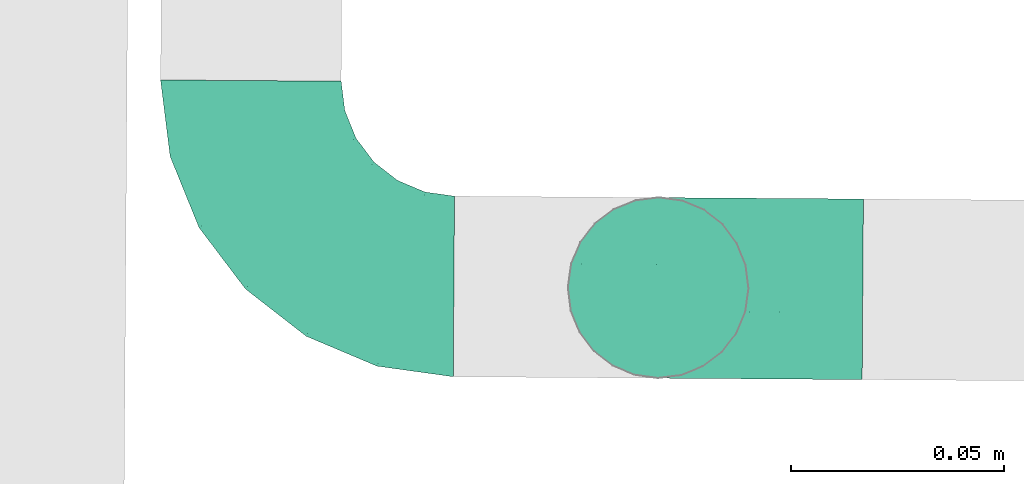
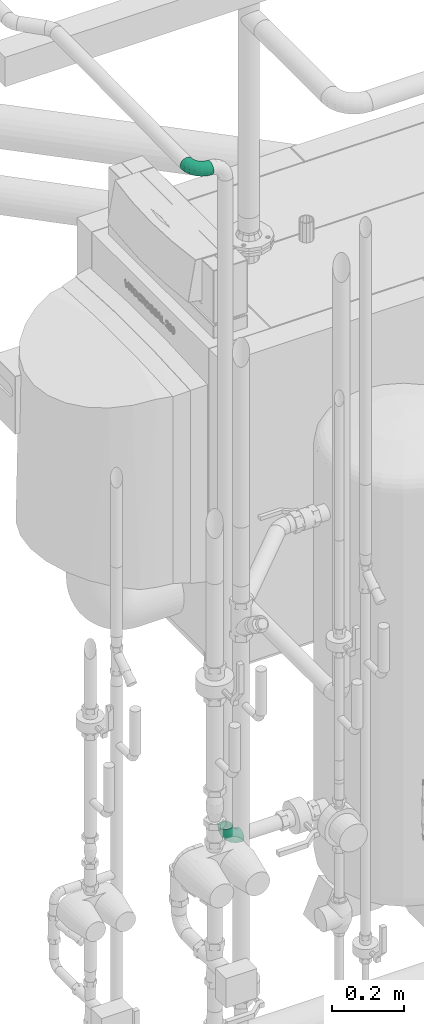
# One storey, part 279 of 374: 2 flow segments.
"""IFC2X3 building model written with IfcOpenShell, lengths in metres."""

from ifc_helpers import new_model, si_unit, direction, origin, place, context, subcontext, project, spatial, open_shell, surface_model, source, transform, mapped, element, save


model = new_model("IFC2X3")

# Units and contexts
model_context = context("Model", 3, precision=1e-05, world=origin(), true_north=direction((-0.4480736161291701, 0.8939966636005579)))
body_context = subcontext(model_context, "Body", "Model", "MODEL_VIEW")
ifc_project = project(units=[si_unit("LENGTHUNIT", "METRE"), si_unit("AREAUNIT", "SQUARE_METRE"), si_unit("VOLUMEUNIT", "CUBIC_METRE"), si_unit("PLANEANGLEUNIT", "RADIAN"), si_unit("THERMODYNAMICTEMPERATUREUNIT", "KELVIN"), si_unit("MASSUNIT", "GRAM", prefix="KILO"), si_unit("TIMEUNIT", "SECOND")], contexts=[model_context])

# Site, building, storey
site_placement = place(None, origin())
site = spatial("IfcSite", under=ifc_project, at=site_placement, Name="Site 1", CompositionType="ELEMENT")
building_placement = place(site_placement, origin())
building = spatial("IfcBuilding", under=site, at=building_placement, Name="Undefined", CompositionType="ELEMENT")
storey_placement = place(building_placement, origin())
storey = spatial("IfcBuildingStorey", under=building, at=storey_placement, Name="Rez de chauss\x8ee", CompositionType="ELEMENT", Elevation=0.0)

# Flow segments
shared_shape_1 = source(origin(), body_context, "Body", "SurfaceModel", [
    surface_model("IfcFaceBasedSurfaceModel", [(0.01806482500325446, 7.105427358e-15, 0.0), (0.017970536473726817, 0.005533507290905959, 0.0), (9.428852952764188e-05, 0.005533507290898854, 0.0), (0.0, 0.0, 0.0), (-0.017172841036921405, 0.00613233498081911, -0.004587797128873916), (-0.01744928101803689, 0.0006051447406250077, -0.004636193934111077), (-0.03265412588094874, 0.007289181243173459, -0.013450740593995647), (-0.0330938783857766, 0.0017741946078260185, -0.013592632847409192), (-0.045294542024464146, 0.008925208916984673, -0.02598483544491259), (-0.045867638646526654, 0.0034274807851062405, -0.02625895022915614), (-0.054232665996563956, 0.010928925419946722, -0.041335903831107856), (-0.05490005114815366, 0.005452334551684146, -0.04177195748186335), (-0.05885937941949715, 0.013163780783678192, -0.05845779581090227), (-0.059575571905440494, 0.007710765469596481, -0.05907446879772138), (0.01769409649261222, 0.010875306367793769, -0.0014203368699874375), (0.00037072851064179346, 0.010875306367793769, -0.0014203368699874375), (-0.016362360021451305, 0.011455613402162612, -0.005866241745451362), (-0.03136483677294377, 0.012576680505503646, -0.014455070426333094), (-0.04361430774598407, 0.014162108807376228, -0.026601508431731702), (-0.05227599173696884, 0.016103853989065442, -0.0414777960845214), (-0.05675960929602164, 0.018269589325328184, -0.05807013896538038), (0.017254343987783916, 0.015661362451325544, -0.0041642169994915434), (0.0008104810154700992, 0.015661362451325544, -0.004164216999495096), (-0.01507307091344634, 0.016212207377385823, -0.008384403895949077), (-0.029313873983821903, 0.01727635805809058, -0.016537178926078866), (-0.04094144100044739, 0.01878129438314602, -0.02806694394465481), (-0.049163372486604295, 0.02062445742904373, -0.042187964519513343), (-0.05341935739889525, 0.02268023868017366, -0.05793791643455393), (0.016681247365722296, 0.01956551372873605, -0.008044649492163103), (0.001383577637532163, 0.01956551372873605, -0.008044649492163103), (-0.01339283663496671, 0.020077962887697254, -0.011970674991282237), (-0.026641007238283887, 0.021067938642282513, -0.01955517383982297), (-0.03745809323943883, 0.02246797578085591, -0.03028127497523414), (-0.04510692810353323, 0.0241826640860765, -0.04341801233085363), (-0.04906625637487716, 0.026095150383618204, -0.05807013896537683), (0.016013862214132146, 0.022321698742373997, -0.012797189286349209), (0.0020509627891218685, 0.022321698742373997, -0.012797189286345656), (-0.011436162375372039, 0.02278943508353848, -0.016380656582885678), (-0.023528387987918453, 0.02369303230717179, -0.023303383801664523), (-0.03340164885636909, 0.024970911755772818, -0.03309359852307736), (-0.040383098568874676, 0.026535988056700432, -0.04508411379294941), (-0.04399696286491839, 0.028281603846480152, -0.05845779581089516), (0.015297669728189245, 0.023742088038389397, -0.018097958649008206), (0.00276715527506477, 0.023742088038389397, -0.018097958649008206), (-0.009336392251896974, 0.024161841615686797, -0.021313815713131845), (-0.02018813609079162, 0.02497274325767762, -0.0275263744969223), (-0.029048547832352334, 0.02611953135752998, -0.03631225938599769), (-0.03531380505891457, 0.027524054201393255, -0.04707272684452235), (-0.0385569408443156, 0.02909059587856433, -0.05907446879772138), (0.014581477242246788, 0.023729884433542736, -0.02358571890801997), (0.0034833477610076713, 0.023729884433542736, -0.02358571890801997), (-0.007236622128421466, 0.024101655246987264, -0.026433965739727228), (-0.016847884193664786, 0.02481986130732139, -0.03193635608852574), (-0.02469544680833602, 0.02583555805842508, -0.03971791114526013), (-0.0302445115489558, 0.027079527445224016, -0.04924833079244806), (-0.03311691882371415, 0.02846699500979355, -0.059878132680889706), (0.013914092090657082, 0.02228591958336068, -0.02888648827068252), (0.004150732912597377, 0.022285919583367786, -0.028886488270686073), (-0.005279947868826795, 0.022612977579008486, -0.031392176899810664), (-0.013735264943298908, 0.023244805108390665, -0.03623279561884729), (-0.020639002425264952, 0.02413834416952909, -0.04307846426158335), (-0.025520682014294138, 0.025232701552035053, -0.051462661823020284), (-0.028047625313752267, 0.026453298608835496, -0.060814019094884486), (0.013340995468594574, 0.01950859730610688, -0.03363902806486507), (0.0047238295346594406, 0.01950859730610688, -0.033639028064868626), (-0.0035997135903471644, 0.019797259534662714, -0.035850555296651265), (-0.011062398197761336, 0.0203549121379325, -0.04012289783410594), (-0.017155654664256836, 0.021143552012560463, -0.04616490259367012), (-0.02146423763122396, 0.022109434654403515, -0.05356481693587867), (-0.02369452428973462, 0.023186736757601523, -0.06181834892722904), (0.012901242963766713, 0.015587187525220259, -0.037519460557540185), (0.005163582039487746, 0.015587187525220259, -0.03751946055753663), (-0.0023104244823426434, 0.015846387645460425, -0.03950526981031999), (-0.009011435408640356, 0.016347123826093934, -0.043341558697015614), (-0.01448278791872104, 0.017055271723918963, -0.048766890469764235), (-0.018351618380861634, 0.017922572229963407, -0.05541153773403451), (-0.02035427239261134, 0.018889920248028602, -0.06282267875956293), (0.012624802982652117, 0.010788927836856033, -0.040263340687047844), (0.005440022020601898, 0.010788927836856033, -0.0402633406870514), (-0.0014999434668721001, 0.011029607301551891, -0.04210725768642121), (-0.007722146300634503, 0.01149456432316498, -0.045669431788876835), (-0.012802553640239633, 0.012152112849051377, -0.05070710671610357), (-0.0163949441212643, 0.012957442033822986, -0.056876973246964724), (-0.018254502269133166, 0.013855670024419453, -0.06375856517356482), (0.012530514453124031, 0.005440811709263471, -0.041683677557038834), (0.005534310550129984, 0.0054408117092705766, -0.041683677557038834), (-0.0012235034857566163, 0.005675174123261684, -0.04347919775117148), (-0.007282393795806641, 0.006127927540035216, -0.046947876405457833), (-0.012229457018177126, 0.0067682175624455, -0.05185332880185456), (-0.015727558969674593, 0.007552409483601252, -0.05786125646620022), (-0.01753830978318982, 0.008427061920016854, -0.0645622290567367), (0.012624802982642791, -9.269558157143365e-05, -0.04168367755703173), (0.005440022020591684, -9.269558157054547e-05, -0.041683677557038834), (-0.0014999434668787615, 0.0001479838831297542, -0.04352759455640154), (-0.00772214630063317, 0.0006129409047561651, -0.04708976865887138), (-0.012802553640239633, 0.001270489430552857, -0.05212744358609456), (-0.0163949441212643, 0.002075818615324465, -0.058297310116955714), (-0.018254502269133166, 0.0029740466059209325, -0.06517890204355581), (0.012901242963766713, -0.005434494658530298, -0.0402633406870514), (0.005163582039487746, -0.005434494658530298, -0.040263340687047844), (-0.0023104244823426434, -0.005175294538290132, -0.0422491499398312), (-0.009011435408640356, -0.004674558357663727, -0.046085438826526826), (-0.01448278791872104, -0.0039664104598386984, -0.051510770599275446), (-0.018351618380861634, -0.0030991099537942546, -0.05815541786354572), (-0.02035427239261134, -0.0021317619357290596, -0.06556655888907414), (0.013340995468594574, -0.010220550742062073, -0.03751946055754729), (0.0047238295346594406, -0.010220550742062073, -0.03751946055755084), (-0.0035997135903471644, -0.009931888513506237, -0.03973098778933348), (-0.011062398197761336, -0.009374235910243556, -0.04400333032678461), (-0.017155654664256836, -0.00858559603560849, -0.05004533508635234), (-0.02146423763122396, -0.007619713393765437, -0.057445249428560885), (-0.02369452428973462, -0.006542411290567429, -0.06569878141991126), (0.013914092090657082, -0.01412470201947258, -0.03363902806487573), (0.004150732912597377, -0.014124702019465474, -0.033639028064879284), (-0.005279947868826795, -0.013797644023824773, -0.036144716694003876), (-0.013735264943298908, -0.013165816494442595, -0.0409853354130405), (-0.020639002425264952, -0.012272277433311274, -0.04783100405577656), (-0.025520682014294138, -0.011177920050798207, -0.05621520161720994), (-0.028047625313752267, -0.009957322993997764, -0.0655665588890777), (0.014581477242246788, -0.01688088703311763, -0.028886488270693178), (0.0034833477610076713, -0.01688088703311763, -0.028886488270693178), (-0.007236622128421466, -0.016509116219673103, -0.031734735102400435), (-0.016847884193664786, -0.015790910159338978, -0.03723712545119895), (-0.02469544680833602, -0.014775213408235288, -0.04501868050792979), (-0.0302445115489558, -0.01353124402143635, -0.054549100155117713), (-0.03311691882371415, -0.012143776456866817, -0.06517890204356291), (0.015297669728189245, -0.01830127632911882, -0.02358571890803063), (0.00276715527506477, -0.01830127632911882, -0.02358571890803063), (-0.009336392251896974, -0.01788152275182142, -0.026801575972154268), (-0.02018813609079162, -0.017070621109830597, -0.033014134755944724), (-0.029048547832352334, -0.01592383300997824, -0.04180001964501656), (-0.03531380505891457, -0.014519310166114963, -0.05256048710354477), (-0.0385569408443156, -0.012952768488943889, -0.06456222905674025), (0.016013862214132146, -0.01828907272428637, -0.018097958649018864), (0.0020509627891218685, -0.01828907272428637, -0.018097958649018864), (-0.011436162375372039, -0.01782133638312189, -0.021681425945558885), (-0.023528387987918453, -0.016917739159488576, -0.02860415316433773), (-0.03340164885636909, -0.01563985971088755, -0.038394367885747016), (-0.040383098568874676, -0.014074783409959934, -0.05038488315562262), (-0.04399696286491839, -0.012329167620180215, -0.06375856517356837), (0.016681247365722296, -0.01684510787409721, -0.012797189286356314), (0.001383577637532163, -0.01684510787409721, -0.012797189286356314), (-0.01339283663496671, -0.016332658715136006, -0.01672321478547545), (-0.026641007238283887, -0.015342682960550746, -0.02430771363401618), (-0.03745809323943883, -0.01394264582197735, -0.03503381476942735), (-0.04510692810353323, -0.01222795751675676, -0.04817055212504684), (-0.04906625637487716, -0.010315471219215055, -0.06282267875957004), (0.017254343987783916, -0.014067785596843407, -0.008044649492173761), (0.0008104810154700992, -0.014067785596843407, -0.008044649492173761), (-0.01507307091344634, -0.013516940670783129, -0.012264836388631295), (-0.029313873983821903, -0.012452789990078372, -0.020417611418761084), (-0.04094144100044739, -0.010947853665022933, -0.03194737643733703), (-0.049163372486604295, -0.009104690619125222, -0.04606839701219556), (-0.05341935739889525, -0.007048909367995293, -0.06181834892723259), (0.01769409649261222, -0.010146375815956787, -0.004164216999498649), (0.00037072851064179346, -0.010146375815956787, -0.004164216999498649), (-0.016362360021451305, -0.009566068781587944, -0.008610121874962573), (-0.03136483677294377, -0.008445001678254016, -0.017198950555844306), (-0.04361430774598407, -0.006859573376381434, -0.029345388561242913), (-0.05227599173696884, -0.00491782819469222, -0.04422167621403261), (-0.05675960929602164, -0.002752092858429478, -0.060814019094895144), (0.017970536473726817, -0.0053481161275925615, -0.0014203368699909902), (9.428852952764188e-05, -0.005348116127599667, -0.001420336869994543), (-0.017172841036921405, -0.004749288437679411, -0.006008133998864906), (-0.03265412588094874, -0.0035924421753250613, -0.014871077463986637), (-0.045294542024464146, -0.001956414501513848, -0.02740517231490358), (-0.05423266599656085, 4.730200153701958e-05, -0.04275624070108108), (-0.05885937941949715, 0.002282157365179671, -0.05987813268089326)], [open_shell([[[0, 1, 2, 3]], [[3, 2, 4, 5]], [[5, 4, 6, 7]], [[7, 6, 8, 9]], [[9, 8, 10, 11]], [[11, 10, 12, 13]], [[1, 14, 15, 2]], [[2, 15, 16, 4]], [[4, 16, 17, 6]], [[6, 17, 18, 8]], [[8, 18, 19, 10]], [[10, 19, 20, 12]], [[14, 21, 22, 15]], [[15, 22, 23, 16]], [[16, 23, 24, 17]], [[17, 24, 25, 18]], [[18, 25, 26, 19]], [[19, 26, 27, 20]], [[21, 28, 29, 22]], [[22, 29, 30, 23]], [[23, 30, 31, 24]], [[24, 31, 32, 25]], [[25, 32, 33, 26]], [[26, 33, 34, 27]], [[28, 35, 36, 29]], [[29, 36, 37, 30]], [[30, 37, 38, 31]], [[31, 38, 39, 32]], [[32, 39, 40, 33]], [[33, 40, 41, 34]], [[35, 42, 43, 36]], [[36, 43, 44, 37]], [[37, 44, 45, 38]], [[38, 45, 46, 39]], [[39, 46, 47, 40]], [[40, 47, 48, 41]], [[42, 49, 50, 43]], [[43, 50, 51, 44]], [[44, 51, 52, 45]], [[45, 52, 53, 46]], [[46, 53, 54, 47]], [[47, 54, 55, 48]], [[49, 56, 57, 50]], [[50, 57, 58, 51]], [[51, 58, 59, 52]], [[52, 59, 60, 53]], [[53, 60, 61, 54]], [[54, 61, 62, 55]], [[56, 63, 64, 57]], [[57, 64, 65, 58]], [[58, 65, 66, 59]], [[59, 66, 67, 60]], [[60, 67, 68, 61]], [[61, 68, 69, 62]], [[63, 70, 71, 64]], [[64, 71, 72, 65]], [[65, 72, 73, 66]], [[66, 73, 74, 67]], [[67, 74, 75, 68]], [[68, 75, 76, 69]], [[70, 77, 78, 71]], [[71, 78, 79, 72]], [[72, 79, 80, 73]], [[73, 80, 81, 74]], [[74, 81, 82, 75]], [[75, 82, 83, 76]], [[77, 84, 85, 78]], [[78, 85, 86, 79]], [[79, 86, 87, 80]], [[80, 87, 88, 81]], [[81, 88, 89, 82]], [[82, 89, 90, 83]], [[84, 91, 92, 85]], [[85, 92, 93, 86]], [[86, 93, 94, 87]], [[87, 94, 95, 88]], [[88, 95, 96, 89]], [[89, 96, 97, 90]], [[91, 98, 99, 92]], [[92, 99, 100, 93]], [[93, 100, 101, 94]], [[94, 101, 102, 95]], [[95, 102, 103, 96]], [[96, 103, 104, 97]], [[98, 105, 106, 99]], [[99, 106, 107, 100]], [[100, 107, 108, 101]], [[101, 108, 109, 102]], [[102, 109, 110, 103]], [[103, 110, 111, 104]], [[105, 112, 113, 106]], [[106, 113, 114, 107]], [[107, 114, 115, 108]], [[108, 115, 116, 109]], [[109, 116, 117, 110]], [[110, 117, 118, 111]], [[112, 119, 120, 113]], [[113, 120, 121, 114]], [[114, 121, 122, 115]], [[115, 122, 123, 116]], [[116, 123, 124, 117]], [[117, 124, 125, 118]], [[119, 126, 127, 120]], [[120, 127, 128, 121]], [[121, 128, 129, 122]], [[122, 129, 130, 123]], [[123, 130, 131, 124]], [[124, 131, 132, 125]], [[126, 133, 134, 127]], [[127, 134, 135, 128]], [[128, 135, 136, 129]], [[129, 136, 137, 130]], [[130, 137, 138, 131]], [[131, 138, 139, 132]], [[133, 140, 141, 134]], [[134, 141, 142, 135]], [[135, 142, 143, 136]], [[136, 143, 144, 137]], [[137, 144, 145, 138]], [[138, 145, 146, 139]], [[140, 147, 148, 141]], [[141, 148, 149, 142]], [[142, 149, 150, 143]], [[143, 150, 151, 144]], [[144, 151, 152, 145]], [[145, 152, 153, 146]], [[147, 154, 155, 148]], [[148, 155, 156, 149]], [[149, 156, 157, 150]], [[150, 157, 158, 151]], [[151, 158, 159, 152]], [[152, 159, 160, 153]], [[154, 161, 162, 155]], [[155, 162, 163, 156]], [[156, 163, 164, 157]], [[157, 164, 165, 158]], [[158, 165, 166, 159]], [[159, 166, 167, 160]], [[161, 0, 3, 162]], [[162, 3, 5, 163]], [[163, 5, 7, 164]], [[164, 7, 9, 165]], [[165, 9, 11, 166]], [[166, 11, 13, 167]]])]),
])
flow_segment_1_placement = place(storey_placement, origin())
element("IfcFlowSegment", 1, at=flow_segment_1_placement, inside=storey, Name="Tube coudé", ObjectType="Tube coudé", context=body_context, shape_type="MappedRepresentation", body=[
    mapped(shared_shape_1, transform((52.94859525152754, 11.739609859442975, 2.6735279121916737), x_axis=(-0.12360147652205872, 0.9923319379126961, 0.0), y_axis=(0.12843584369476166, 0.015997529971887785, -0.9915887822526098), z_axis=(-0.9839852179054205, -0.12256183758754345, -0.12942830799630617))),
])
shared_shape_2 = source(origin(), body_context, "Body", "SurfaceModel", [
    surface_model("IfcFaceBasedSurfaceModel", [(0.01806482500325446, 7.105427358e-15, 0.0), (0.017970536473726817, 0.005533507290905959, 0.0), (9.428852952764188e-05, 0.005533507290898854, 0.0), (0.0, 0.0, 0.0), (-0.017172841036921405, 0.00613233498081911, -0.004587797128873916), (-0.01744928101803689, 0.0006051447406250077, -0.004636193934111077), (-0.03265412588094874, 0.007289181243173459, -0.013450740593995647), (-0.0330938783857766, 0.0017741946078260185, -0.013592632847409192), (-0.045294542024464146, 0.008925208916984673, -0.02598483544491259), (-0.045867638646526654, 0.0034274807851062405, -0.02625895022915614), (-0.054232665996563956, 0.010928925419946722, -0.041335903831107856), (-0.05490005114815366, 0.005452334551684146, -0.04177195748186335), (-0.05885937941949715, 0.013163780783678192, -0.05845779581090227), (-0.059575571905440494, 0.007710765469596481, -0.05907446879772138), (0.01769409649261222, 0.010875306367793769, -0.0014203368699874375), (0.00037072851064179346, 0.010875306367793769, -0.0014203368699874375), (-0.016362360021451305, 0.011455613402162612, -0.005866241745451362), (-0.03136483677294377, 0.012576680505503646, -0.014455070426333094), (-0.04361430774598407, 0.014162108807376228, -0.026601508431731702), (-0.05227599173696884, 0.016103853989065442, -0.0414777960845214), (-0.05675960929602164, 0.018269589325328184, -0.05807013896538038), (0.017254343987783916, 0.015661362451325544, -0.0041642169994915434), (0.0008104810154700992, 0.015661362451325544, -0.004164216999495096), (-0.01507307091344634, 0.016212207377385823, -0.008384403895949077), (-0.029313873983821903, 0.01727635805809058, -0.016537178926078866), (-0.04094144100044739, 0.01878129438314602, -0.02806694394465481), (-0.049163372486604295, 0.02062445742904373, -0.042187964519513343), (-0.05341935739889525, 0.02268023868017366, -0.05793791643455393), (0.016681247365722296, 0.01956551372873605, -0.008044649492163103), (0.001383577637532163, 0.01956551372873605, -0.008044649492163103), (-0.01339283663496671, 0.020077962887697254, -0.011970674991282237), (-0.026641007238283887, 0.021067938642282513, -0.01955517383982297), (-0.03745809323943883, 0.02246797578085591, -0.03028127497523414), (-0.04510692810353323, 0.0241826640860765, -0.04341801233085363), (-0.04906625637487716, 0.026095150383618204, -0.05807013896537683), (0.016013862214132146, 0.022321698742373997, -0.012797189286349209), (0.0020509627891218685, 0.022321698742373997, -0.012797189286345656), (-0.011436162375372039, 0.02278943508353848, -0.016380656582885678), (-0.023528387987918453, 0.02369303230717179, -0.023303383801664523), (-0.03340164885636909, 0.024970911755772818, -0.03309359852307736), (-0.040383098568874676, 0.026535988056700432, -0.04508411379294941), (-0.04399696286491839, 0.028281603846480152, -0.05845779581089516), (0.015297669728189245, 0.023742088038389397, -0.018097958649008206), (0.00276715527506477, 0.023742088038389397, -0.018097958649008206), (-0.009336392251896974, 0.024161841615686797, -0.021313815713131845), (-0.02018813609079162, 0.02497274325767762, -0.0275263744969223), (-0.029048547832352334, 0.02611953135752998, -0.03631225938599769), (-0.03531380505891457, 0.027524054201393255, -0.04707272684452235), (-0.0385569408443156, 0.02909059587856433, -0.05907446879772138), (0.014581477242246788, 0.023729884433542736, -0.02358571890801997), (0.0034833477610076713, 0.023729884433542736, -0.02358571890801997), (-0.007236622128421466, 0.024101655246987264, -0.026433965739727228), (-0.016847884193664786, 0.02481986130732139, -0.03193635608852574), (-0.02469544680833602, 0.02583555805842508, -0.03971791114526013), (-0.0302445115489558, 0.027079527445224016, -0.04924833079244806), (-0.03311691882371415, 0.02846699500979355, -0.059878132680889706), (0.013914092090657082, 0.02228591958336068, -0.02888648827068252), (0.004150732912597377, 0.022285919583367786, -0.028886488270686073), (-0.005279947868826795, 0.022612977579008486, -0.031392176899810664), (-0.013735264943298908, 0.023244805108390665, -0.03623279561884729), (-0.020639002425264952, 0.02413834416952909, -0.04307846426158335), (-0.025520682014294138, 0.025232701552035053, -0.051462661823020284), (-0.028047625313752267, 0.026453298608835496, -0.060814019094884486), (0.013340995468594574, 0.01950859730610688, -0.03363902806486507), (0.0047238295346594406, 0.01950859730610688, -0.033639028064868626), (-0.0035997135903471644, 0.019797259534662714, -0.035850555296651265), (-0.011062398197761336, 0.0203549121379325, -0.04012289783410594), (-0.017155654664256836, 0.021143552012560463, -0.04616490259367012), (-0.02146423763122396, 0.022109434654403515, -0.05356481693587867), (-0.02369452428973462, 0.023186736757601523, -0.06181834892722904), (0.012901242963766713, 0.015587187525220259, -0.037519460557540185), (0.005163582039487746, 0.015587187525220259, -0.03751946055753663), (-0.0023104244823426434, 0.015846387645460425, -0.03950526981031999), (-0.009011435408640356, 0.016347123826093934, -0.043341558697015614), (-0.01448278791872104, 0.017055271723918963, -0.048766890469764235), (-0.018351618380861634, 0.017922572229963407, -0.05541153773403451), (-0.02035427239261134, 0.018889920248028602, -0.06282267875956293), (0.012624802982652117, 0.010788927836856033, -0.040263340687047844), (0.005440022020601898, 0.010788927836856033, -0.0402633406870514), (-0.0014999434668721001, 0.011029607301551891, -0.04210725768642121), (-0.007722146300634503, 0.01149456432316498, -0.045669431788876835), (-0.012802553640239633, 0.012152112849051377, -0.05070710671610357), (-0.0163949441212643, 0.012957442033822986, -0.056876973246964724), (-0.018254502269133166, 0.013855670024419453, -0.06375856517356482), (0.012530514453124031, 0.005440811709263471, -0.041683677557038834), (0.005534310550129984, 0.0054408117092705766, -0.041683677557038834), (-0.0012235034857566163, 0.005675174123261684, -0.04347919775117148), (-0.007282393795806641, 0.006127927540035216, -0.046947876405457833), (-0.012229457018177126, 0.0067682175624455, -0.05185332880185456), (-0.015727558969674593, 0.007552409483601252, -0.05786125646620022), (-0.01753830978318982, 0.008427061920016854, -0.0645622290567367), (0.012624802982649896, -9.26955816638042e-05, -0.04168367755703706), (0.005440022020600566, -9.269558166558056e-05, -0.04168367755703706), (-0.0014999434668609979, 0.00014798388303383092, -0.0435275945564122), (-0.007722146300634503, 0.0006129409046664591, -0.047089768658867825), (-0.012802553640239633, 0.001270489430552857, -0.05212744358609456), (-0.0163949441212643, 0.002075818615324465, -0.058297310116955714), (-0.018254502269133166, 0.0029740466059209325, -0.06517890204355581), (0.012901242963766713, -0.005434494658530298, -0.0402633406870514), (0.005163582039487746, -0.005434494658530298, -0.040263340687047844), (-0.0023104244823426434, -0.005175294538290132, -0.0422491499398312), (-0.009011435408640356, -0.004674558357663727, -0.046085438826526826), (-0.01448278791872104, -0.0039664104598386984, -0.051510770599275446), (-0.018351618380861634, -0.0030991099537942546, -0.05815541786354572), (-0.02035427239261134, -0.0021317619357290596, -0.06556655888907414), (0.013340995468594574, -0.010220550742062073, -0.03751946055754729), (0.0047238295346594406, -0.010220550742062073, -0.03751946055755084), (-0.0035997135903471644, -0.009931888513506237, -0.03973098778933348), (-0.011062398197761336, -0.009374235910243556, -0.04400333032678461), (-0.017155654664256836, -0.00858559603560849, -0.05004533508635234), (-0.02146423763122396, -0.007619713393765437, -0.057445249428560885), (-0.02369452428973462, -0.006542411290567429, -0.06569878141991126), (0.013914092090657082, -0.01412470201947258, -0.03363902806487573), (0.004150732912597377, -0.014124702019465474, -0.033639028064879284), (-0.005279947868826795, -0.013797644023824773, -0.036144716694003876), (-0.013735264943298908, -0.013165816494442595, -0.0409853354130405), (-0.020639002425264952, -0.012272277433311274, -0.04783100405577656), (-0.025520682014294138, -0.011177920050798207, -0.05621520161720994), (-0.028047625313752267, -0.009957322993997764, -0.0655665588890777), (0.014581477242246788, -0.01688088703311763, -0.028886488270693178), (0.0034833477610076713, -0.01688088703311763, -0.028886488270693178), (-0.007236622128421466, -0.016509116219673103, -0.031734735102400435), (-0.016847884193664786, -0.015790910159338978, -0.03723712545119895), (-0.02469544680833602, -0.014775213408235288, -0.04501868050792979), (-0.0302445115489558, -0.01353124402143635, -0.054549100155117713), (-0.03311691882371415, -0.012143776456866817, -0.06517890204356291), (0.015297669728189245, -0.01830127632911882, -0.02358571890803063), (0.00276715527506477, -0.01830127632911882, -0.02358571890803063), (-0.009336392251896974, -0.01788152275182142, -0.026801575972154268), (-0.02018813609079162, -0.017070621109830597, -0.033014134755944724), (-0.029048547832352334, -0.01592383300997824, -0.04180001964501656), (-0.03531380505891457, -0.014519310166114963, -0.05256048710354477), (-0.0385569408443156, -0.012952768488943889, -0.06456222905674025), (0.016013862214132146, -0.01828907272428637, -0.018097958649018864), (0.0020509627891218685, -0.01828907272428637, -0.018097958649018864), (-0.011436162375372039, -0.01782133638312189, -0.021681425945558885), (-0.023528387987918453, -0.016917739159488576, -0.02860415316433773), (-0.03340164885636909, -0.01563985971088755, -0.038394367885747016), (-0.040383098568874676, -0.014074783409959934, -0.05038488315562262), (-0.04399696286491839, -0.012329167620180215, -0.06375856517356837), (0.016681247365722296, -0.01684510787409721, -0.012797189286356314), (0.001383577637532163, -0.01684510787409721, -0.012797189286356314), (-0.01339283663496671, -0.016332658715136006, -0.01672321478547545), (-0.026641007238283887, -0.015342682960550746, -0.02430771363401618), (-0.03745809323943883, -0.01394264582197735, -0.03503381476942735), (-0.04510692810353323, -0.01222795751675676, -0.04817055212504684), (-0.04906625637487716, -0.010315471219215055, -0.06282267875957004), (0.017254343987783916, -0.014067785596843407, -0.008044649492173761), (0.0008104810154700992, -0.014067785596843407, -0.008044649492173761), (-0.01507307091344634, -0.013516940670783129, -0.012264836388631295), (-0.029313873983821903, -0.012452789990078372, -0.020417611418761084), (-0.04094144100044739, -0.010947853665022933, -0.03194737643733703), (-0.049163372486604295, -0.009104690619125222, -0.04606839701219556), (-0.05341935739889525, -0.007048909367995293, -0.06181834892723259), (0.01769409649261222, -0.010146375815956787, -0.004164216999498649), (0.00037072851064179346, -0.010146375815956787, -0.004164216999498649), (-0.016362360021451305, -0.009566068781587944, -0.008610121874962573), (-0.03136483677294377, -0.008445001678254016, -0.017198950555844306), (-0.04361430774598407, -0.006859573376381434, -0.029345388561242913), (-0.05227599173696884, -0.00491782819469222, -0.04422167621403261), (-0.05675960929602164, -0.002752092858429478, -0.060814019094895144), (0.017970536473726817, -0.0053481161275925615, -0.0014203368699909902), (9.428852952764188e-05, -0.005348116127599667, -0.001420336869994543), (-0.017172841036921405, -0.004749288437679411, -0.006008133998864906), (-0.03265412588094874, -0.0035924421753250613, -0.014871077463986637), (-0.045294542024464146, -0.001956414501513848, -0.02740517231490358), (-0.05423266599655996, 4.730200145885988e-05, -0.04275624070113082), (-0.05885937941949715, 0.002282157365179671, -0.05987813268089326)], [open_shell([[[0, 1, 2, 3]], [[3, 2, 4, 5]], [[5, 4, 6, 7]], [[7, 6, 8, 9]], [[9, 8, 10, 11]], [[11, 10, 12, 13]], [[1, 14, 15, 2]], [[2, 15, 16, 4]], [[4, 16, 17, 6]], [[6, 17, 18, 8]], [[8, 18, 19, 10]], [[10, 19, 20, 12]], [[14, 21, 22, 15]], [[15, 22, 23, 16]], [[16, 23, 24, 17]], [[17, 24, 25, 18]], [[18, 25, 26, 19]], [[19, 26, 27, 20]], [[21, 28, 29, 22]], [[22, 29, 30, 23]], [[23, 30, 31, 24]], [[24, 31, 32, 25]], [[25, 32, 33, 26]], [[26, 33, 34, 27]], [[28, 35, 36, 29]], [[29, 36, 37, 30]], [[30, 37, 38, 31]], [[31, 38, 39, 32]], [[32, 39, 40, 33]], [[33, 40, 41, 34]], [[35, 42, 43, 36]], [[36, 43, 44, 37]], [[37, 44, 45, 38]], [[38, 45, 46, 39]], [[39, 46, 47, 40]], [[40, 47, 48, 41]], [[42, 49, 50, 43]], [[43, 50, 51, 44]], [[44, 51, 52, 45]], [[45, 52, 53, 46]], [[46, 53, 54, 47]], [[47, 54, 55, 48]], [[49, 56, 57, 50]], [[50, 57, 58, 51]], [[51, 58, 59, 52]], [[52, 59, 60, 53]], [[53, 60, 61, 54]], [[54, 61, 62, 55]], [[56, 63, 64, 57]], [[57, 64, 65, 58]], [[58, 65, 66, 59]], [[59, 66, 67, 60]], [[60, 67, 68, 61]], [[61, 68, 69, 62]], [[63, 70, 71, 64]], [[64, 71, 72, 65]], [[65, 72, 73, 66]], [[66, 73, 74, 67]], [[67, 74, 75, 68]], [[68, 75, 76, 69]], [[70, 77, 78, 71]], [[71, 78, 79, 72]], [[72, 79, 80, 73]], [[73, 80, 81, 74]], [[74, 81, 82, 75]], [[75, 82, 83, 76]], [[77, 84, 85, 78]], [[78, 85, 86, 79]], [[79, 86, 87, 80]], [[80, 87, 88, 81]], [[81, 88, 89, 82]], [[82, 89, 90, 83]], [[84, 91, 92, 85]], [[85, 92, 93, 86]], [[86, 93, 94, 87]], [[87, 94, 95, 88]], [[88, 95, 96, 89]], [[89, 96, 97, 90]], [[91, 98, 99, 92]], [[92, 99, 100, 93]], [[93, 100, 101, 94]], [[94, 101, 102, 95]], [[95, 102, 103, 96]], [[96, 103, 104, 97]], [[98, 105, 106, 99]], [[99, 106, 107, 100]], [[100, 107, 108, 101]], [[101, 108, 109, 102]], [[102, 109, 110, 103]], [[103, 110, 111, 104]], [[105, 112, 113, 106]], [[106, 113, 114, 107]], [[107, 114, 115, 108]], [[108, 115, 116, 109]], [[109, 116, 117, 110]], [[110, 117, 118, 111]], [[112, 119, 120, 113]], [[113, 120, 121, 114]], [[114, 121, 122, 115]], [[115, 122, 123, 116]], [[116, 123, 124, 117]], [[117, 124, 125, 118]], [[119, 126, 127, 120]], [[120, 127, 128, 121]], [[121, 128, 129, 122]], [[122, 129, 130, 123]], [[123, 130, 131, 124]], [[124, 131, 132, 125]], [[126, 133, 134, 127]], [[127, 134, 135, 128]], [[128, 135, 136, 129]], [[129, 136, 137, 130]], [[130, 137, 138, 131]], [[131, 138, 139, 132]], [[133, 140, 141, 134]], [[134, 141, 142, 135]], [[135, 142, 143, 136]], [[136, 143, 144, 137]], [[137, 144, 145, 138]], [[138, 145, 146, 139]], [[140, 147, 148, 141]], [[141, 148, 149, 142]], [[142, 149, 150, 143]], [[143, 150, 151, 144]], [[144, 151, 152, 145]], [[145, 152, 153, 146]], [[147, 154, 155, 148]], [[148, 155, 156, 149]], [[149, 156, 157, 150]], [[150, 157, 158, 151]], [[151, 158, 159, 152]], [[152, 159, 160, 153]], [[154, 161, 162, 155]], [[155, 162, 163, 156]], [[156, 163, 164, 157]], [[157, 164, 165, 158]], [[158, 165, 166, 159]], [[159, 166, 167, 160]], [[161, 0, 3, 162]], [[162, 3, 5, 163]], [[163, 5, 7, 164]], [[164, 7, 9, 165]], [[165, 9, 11, 166]], [[166, 11, 13, 167]]])]),
])
flow_segment_2_placement = place(storey_placement, origin())
element("IfcFlowSegment", 2, at=flow_segment_2_placement, inside=storey, Name="Tube coudé", ObjectType="Tube coudé", context=body_context, shape_type="MappedRepresentation", body=[
    mapped(shared_shape_2, transform((53.044382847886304, 11.708850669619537, 0.4042397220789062), x_axis=(-0.130523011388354, 0.0009112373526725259, 0.9914448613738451), y_axis=(0.1352404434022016, 0.9906687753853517, 0.016893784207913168), z_axis=(-0.9821780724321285, 0.13628847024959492, -0.12942830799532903))),
])

save(model, "model.ifc")
